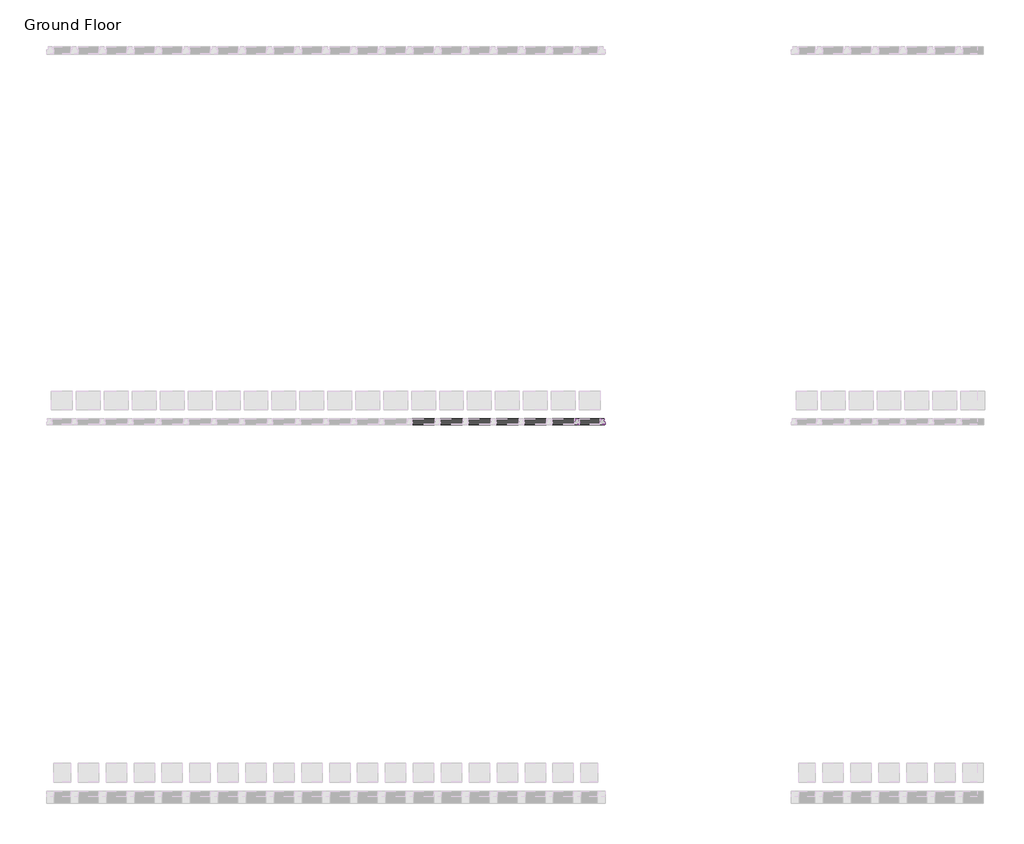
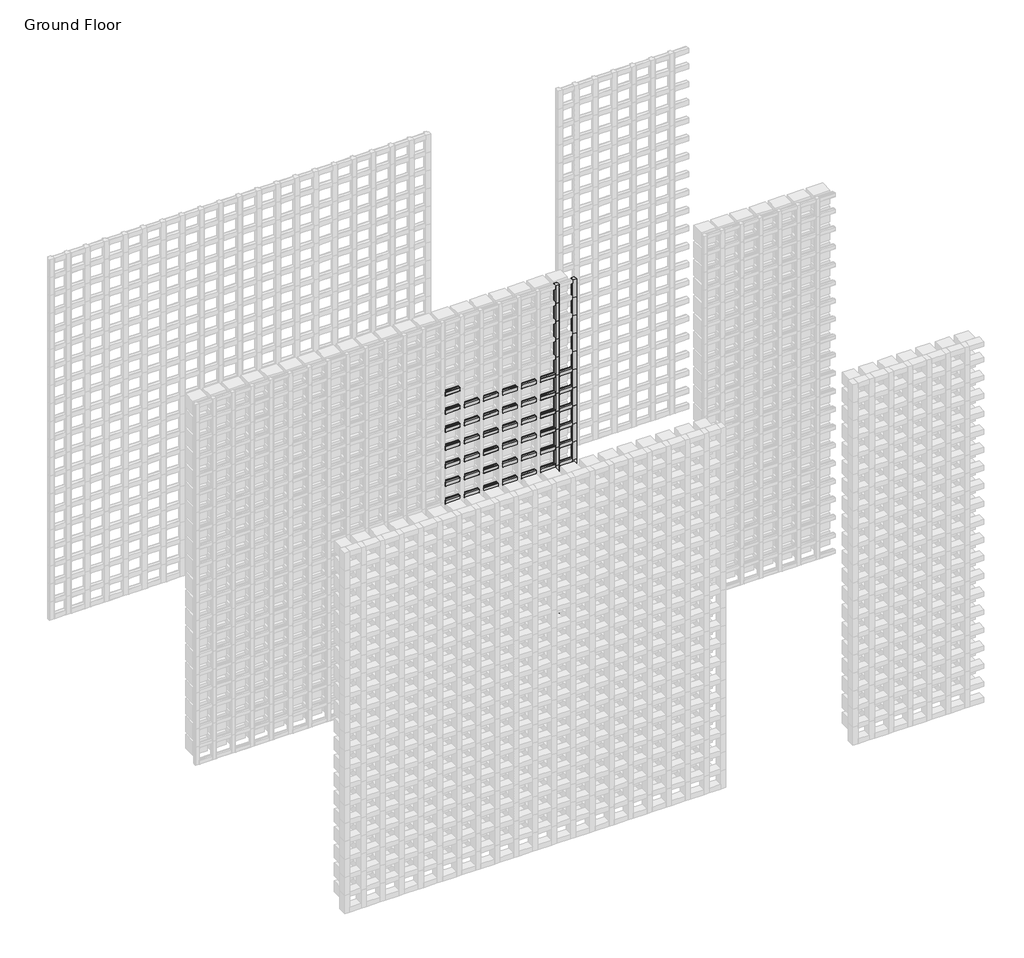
# One storey, part 134 of 350: 144 members.
"""IFC4 building model written with IfcOpenShell, lengths in millimetres."""

from ifc_helpers import new_model, si_unit, origin, place, context, project, spatial, transform, mapped, element, save
from components import rectangular_mullion_f1976eb1, rectangular_mullion_e2bab149, rectangular_mullion_707a50c4, rectangular_mullion_a370a012

model = new_model("IFC4")

# Units and contexts
model_context = context("Model", 3, world=origin())
ifc_project = project(units=[si_unit("LENGTHUNIT", "METRE", prefix="MILLI")], contexts=[model_context])

# Site, building, storey
site = spatial("IfcSite", under=ifc_project)
building = spatial("IfcBuilding", under=site)
storey = spatial("IfcBuildingStorey", under=building, Name="Ground Floor", Elevation=0.0)

# Members
placement = place(None, origin())
rectangular_mullion_shape = rectangular_mullion_f1976eb1(model_context)
element("IfcMember", 1, ObjectType="Rectangular Mullion : Batten_Timber_Modinex_Austratus_Grid_Fin_30x30_Blackbutt", at=placement, inside=storey, context=model_context, shape_type="MappedRepresentation", body=[
    mapped(rectangular_mullion_shape, transform((8766.4361642, 42968.2978302, 150.0), x_axis=(1.0, 0.0, 0.0), y_axis=(0.0, -1.0, 0.0), z_axis=(0.0, 0.0, -1.0))),
])
element("IfcMember", 2, ObjectType="Rectangular Mullion : Batten_Timber_Modinex_Austratus_Grid_Fin_30x30_Blackbutt", at=placement, inside=storey, context=model_context, shape_type="MappedRepresentation", body=[
    mapped(rectangular_mullion_shape, transform((8766.4361642, 42968.2978302, 300.0), x_axis=(1.0, 0.0, 0.0), y_axis=(0.0, -1.0, 0.0), z_axis=(0.0, 0.0, -1.0))),
])
element("IfcMember", 3, ObjectType="Rectangular Mullion : Batten_Timber_Modinex_Austratus_Grid_Fin_30x30_Blackbutt", at=placement, inside=storey, context=model_context, shape_type="MappedRepresentation", body=[
    mapped(rectangular_mullion_shape, transform((8766.4361642, 42968.2978302, 450.0), x_axis=(1.0, 0.0, 0.0), y_axis=(0.0, -1.0, 0.0), z_axis=(0.0, 0.0, -1.0))),
])
element("IfcMember", 4, ObjectType="Rectangular Mullion : Batten_Timber_Modinex_Austratus_Grid_Fin_30x30_Blackbutt", at=placement, inside=storey, context=model_context, shape_type="MappedRepresentation", body=[
    mapped(rectangular_mullion_shape, transform((8766.4361642, 42968.2978302, 600.0), x_axis=(1.0, 0.0, 0.0), y_axis=(0.0, -1.0, 0.0), z_axis=(0.0, 0.0, -1.0))),
])
element("IfcMember", 5, ObjectType="Rectangular Mullion : Batten_Timber_Modinex_Austratus_Grid_Fin_30x30_Blackbutt", at=placement, inside=storey, context=model_context, shape_type="MappedRepresentation", body=[
    mapped(rectangular_mullion_shape, transform((8766.4361642, 42968.2978302, 750.0), x_axis=(1.0, 0.0, 0.0), y_axis=(0.0, -1.0, 0.0), z_axis=(0.0, 0.0, -1.0))),
])
element("IfcMember", 6, ObjectType="Rectangular Mullion : Batten_Timber_Modinex_Austratus_Grid_Fin_30x30_Blackbutt", at=placement, inside=storey, context=model_context, shape_type="MappedRepresentation", body=[
    mapped(rectangular_mullion_shape, transform((8766.4361642, 42968.2978302, 900.0), x_axis=(1.0, 0.0, 0.0), y_axis=(0.0, -1.0, 0.0), z_axis=(0.0, 0.0, -1.0))),
])
element("IfcMember", 7, ObjectType="Rectangular Mullion : Batten_Timber_Modinex_Austratus_Grid_Fin_30x30_Blackbutt", at=placement, inside=storey, context=model_context, shape_type="MappedRepresentation", body=[
    mapped(rectangular_mullion_shape, transform((8766.4361642, 42968.2978302, 1050.0), x_axis=(1.0, 0.0, 0.0), y_axis=(0.0, -1.0, 0.0), z_axis=(0.0, 0.0, -1.0))),
])
element("IfcMember", 8, ObjectType="Rectangular Mullion : Batten_Timber_Modinex_Austratus_Grid_Fin_30x30_Blackbutt", at=placement, inside=storey, context=model_context, shape_type="MappedRepresentation", body=[
    mapped(rectangular_mullion_shape, transform((8766.4361642, 42968.2978302, 1200.0), x_axis=(1.0, 0.0, 0.0), y_axis=(0.0, -1.0, 0.0), z_axis=(0.0, 0.0, -1.0))),
])
element("IfcMember", 9, ObjectType="Rectangular Mullion : Batten_Timber_Modinex_Austratus_Grid_Fin_30x30_Blackbutt", at=placement, inside=storey, context=model_context, shape_type="MappedRepresentation", body=[
    mapped(rectangular_mullion_shape, transform((8766.4361642, 42968.2978302, 1350.0), x_axis=(1.0, 0.0, 0.0), y_axis=(0.0, -1.0, 0.0), z_axis=(0.0, 0.0, -1.0))),
])
element("IfcMember", 10, ObjectType="Rectangular Mullion : Batten_Timber_Modinex_Austratus_Grid_Fin_30x30_Blackbutt", at=placement, inside=storey, context=model_context, shape_type="MappedRepresentation", body=[
    mapped(rectangular_mullion_shape, transform((8766.4361642, 42968.2978302, 1500.0), x_axis=(1.0, 0.0, 0.0), y_axis=(0.0, -1.0, 0.0), z_axis=(0.0, 0.0, -1.0))),
])
element("IfcMember", 11, ObjectType="Rectangular Mullion : Batten_Timber_Modinex_Austratus_Grid_Fin_30x30_Blackbutt", at=placement, inside=storey, context=model_context, shape_type="MappedRepresentation", body=[
    mapped(rectangular_mullion_shape, transform((8766.4361642, 42968.2978302, 1650.0), x_axis=(1.0, 0.0, 0.0), y_axis=(0.0, -1.0, 0.0), z_axis=(0.0, 0.0, -1.0))),
])
element("IfcMember", 12, ObjectType="Rectangular Mullion : Batten_Timber_Modinex_Austratus_Grid_Fin_30x30_Blackbutt", at=placement, inside=storey, context=model_context, shape_type="MappedRepresentation", body=[
    mapped(rectangular_mullion_shape, transform((8766.4361642, 42968.2978302, 1800.0), x_axis=(1.0, 0.0, 0.0), y_axis=(0.0, -1.0, 0.0), z_axis=(0.0, 0.0, -1.0))),
])
element("IfcMember", 13, ObjectType="Rectangular Mullion : Batten_Timber_Modinex_Austratus_Grid_Fin_30x30_Blackbutt", at=placement, inside=storey, context=model_context, shape_type="MappedRepresentation", body=[
    mapped(rectangular_mullion_shape, transform((8766.4361642, 42968.2978302, 1950.0), x_axis=(1.0, 0.0, 0.0), y_axis=(0.0, -1.0, 0.0), z_axis=(0.0, 0.0, -1.0))),
])
element("IfcMember", 14, ObjectType="Rectangular Mullion : Batten_Timber_Modinex_Austratus_Grid_Fin_30x30_Blackbutt", at=placement, inside=storey, context=model_context, shape_type="MappedRepresentation", body=[
    mapped(rectangular_mullion_shape, transform((8766.4361642, 42968.2978302, 2100.0), x_axis=(1.0, 0.0, 0.0), y_axis=(0.0, -1.0, 0.0), z_axis=(0.0, 0.0, -1.0))),
])
element("IfcMember", 15, ObjectType="Rectangular Mullion : Batten_Timber_Modinex_Austratus_Grid_Fin_30x30_Blackbutt", at=placement, inside=storey, context=model_context, shape_type="MappedRepresentation", body=[
    mapped(rectangular_mullion_shape, transform((8766.4361642, 42968.2978302, 2250.0), x_axis=(1.0, 0.0, 0.0), y_axis=(0.0, -1.0, 0.0), z_axis=(0.0, 0.0, -1.0))),
])
element("IfcMember", 16, ObjectType="Rectangular Mullion : Batten_Timber_Modinex_Austratus_Grid_Fin_30x30_Blackbutt", at=placement, inside=storey, context=model_context, shape_type="MappedRepresentation", body=[
    mapped(rectangular_mullion_shape, transform((8766.4361642, 42968.2978302, 2400.0), x_axis=(1.0, 0.0, 0.0), y_axis=(0.0, -1.0, 0.0), z_axis=(0.0, 0.0, -1.0))),
])
element("IfcMember", 17, ObjectType="Rectangular Mullion : Batten_Timber_Modinex_Austratus_Grid_Fin_30x30_Blackbutt", at=placement, inside=storey, context=model_context, shape_type="MappedRepresentation", body=[
    mapped(rectangular_mullion_shape, transform((8766.4361642, 42968.2978302, 2550.0), x_axis=(1.0, 0.0, 0.0), y_axis=(0.0, -1.0, 0.0), z_axis=(0.0, 0.0, -1.0))),
])
element("IfcMember", 18, ObjectType="Rectangular Mullion : Batten_Timber_Modinex_Austratus_Grid_Fin_30x30_Blackbutt", at=placement, inside=storey, context=model_context, shape_type="MappedRepresentation", body=[
    mapped(rectangular_mullion_shape, transform((8766.4361642, 42968.2978302, 2700.0), x_axis=(1.0, 0.0, 0.0), y_axis=(0.0, -1.0, 0.0), z_axis=(0.0, 0.0, -1.0))),
])
element("IfcMember", 19, ObjectType="Rectangular Mullion : Batten_Timber_Modinex_Austratus_Grid_Fin_30x30_Blackbutt", at=placement, inside=storey, context=model_context, shape_type="MappedRepresentation", body=[
    mapped(rectangular_mullion_shape, transform((8766.4361642, 42968.2978302, 2850.0), x_axis=(1.0, 0.0, 0.0), y_axis=(0.0, -1.0, 0.0), z_axis=(0.0, 0.0, -1.0))),
])
rectangular_mullion_2_shape = rectangular_mullion_e2bab149(model_context)
element("IfcMember", 20, ObjectType="Rectangular Mullion : Batten_Timber_Modinex_Austratus_Grid_Fin_30x30_Blackbutt", at=placement, inside=storey, context=model_context, shape_type="MappedRepresentation", body=[
    mapped(rectangular_mullion_2_shape, transform((8886.4361639, 42968.2978302, 150.0), x_axis=(0.0, 0.0, 1.0), y_axis=(0.0, -1.0, 0.0), z_axis=(1.0, 0.0, 0.0))),
])
element("IfcMember", 21, ObjectType="Rectangular Mullion : Batten_Timber_Modinex_Austratus_Grid_Fin_30x30_Blackbutt", at=placement, inside=storey, context=model_context, shape_type="MappedRepresentation", body=[
    mapped(rectangular_mullion_2_shape, transform((8886.4361639, 42968.2978302, 300.0), x_axis=(0.0, 0.0, 1.0), y_axis=(0.0, -1.0, 0.0), z_axis=(1.0, 0.0, 0.0))),
])
element("IfcMember", 22, ObjectType="Rectangular Mullion : Batten_Timber_Modinex_Austratus_Grid_Fin_30x30_Blackbutt", at=placement, inside=storey, context=model_context, shape_type="MappedRepresentation", body=[
    mapped(rectangular_mullion_2_shape, transform((8886.4361639, 42968.2978302, 450.0), x_axis=(0.0, 0.0, 1.0), y_axis=(0.0, -1.0, 0.0), z_axis=(1.0, 0.0, 0.0))),
])
element("IfcMember", 23, ObjectType="Rectangular Mullion : Batten_Timber_Modinex_Austratus_Grid_Fin_30x30_Blackbutt", at=placement, inside=storey, context=model_context, shape_type="MappedRepresentation", body=[
    mapped(rectangular_mullion_2_shape, transform((8886.4361639, 42968.2978302, 600.0), x_axis=(0.0, 0.0, 1.0), y_axis=(0.0, -1.0, 0.0), z_axis=(1.0, 0.0, 0.0))),
])
element("IfcMember", 24, ObjectType="Rectangular Mullion : Batten_Timber_Modinex_Austratus_Grid_Fin_30x30_Blackbutt", at=placement, inside=storey, context=model_context, shape_type="MappedRepresentation", body=[
    mapped(rectangular_mullion_2_shape, transform((8886.4361639, 42968.2978302, 750.0), x_axis=(0.0, 0.0, 1.0), y_axis=(0.0, -1.0, 0.0), z_axis=(1.0, 0.0, 0.0))),
])
element("IfcMember", 25, ObjectType="Rectangular Mullion : Batten_Timber_Modinex_Austratus_Grid_Fin_30x30_Blackbutt", at=placement, inside=storey, context=model_context, shape_type="MappedRepresentation", body=[
    mapped(rectangular_mullion_2_shape, transform((8886.4361639, 42968.2978302, 900.0), x_axis=(0.0, 0.0, 1.0), y_axis=(0.0, -1.0, 0.0), z_axis=(1.0, 0.0, 0.0))),
])
element("IfcMember", 26, ObjectType="Rectangular Mullion : Batten_Timber_Modinex_Austratus_Grid_Fin_30x30_Blackbutt", at=placement, inside=storey, context=model_context, shape_type="MappedRepresentation", body=[
    mapped(rectangular_mullion_2_shape, transform((8886.4361639, 42968.2978302, 1050.0), x_axis=(0.0, 0.0, 1.0), y_axis=(0.0, -1.0, 0.0), z_axis=(1.0, 0.0, 0.0))),
])
element("IfcMember", 27, ObjectType="Rectangular Mullion : Batten_Timber_Modinex_Austratus_Grid_Fin_30x30_Blackbutt", at=placement, inside=storey, context=model_context, shape_type="MappedRepresentation", body=[
    mapped(rectangular_mullion_2_shape, transform((8886.4361639, 42968.2978302, 1200.0), x_axis=(0.0, 0.0, 1.0), y_axis=(0.0, -1.0, 0.0), z_axis=(1.0, 0.0, 0.0))),
])
element("IfcMember", 28, ObjectType="Rectangular Mullion : Batten_Timber_Modinex_Austratus_Grid_Fin_30x30_Blackbutt", at=placement, inside=storey, context=model_context, shape_type="MappedRepresentation", body=[
    mapped(rectangular_mullion_2_shape, transform((8886.4361639, 42968.2978302, 1350.0), x_axis=(0.0, 0.0, 1.0), y_axis=(0.0, -1.0, 0.0), z_axis=(1.0, 0.0, 0.0))),
])
element("IfcMember", 29, ObjectType="Rectangular Mullion : Batten_Timber_Modinex_Austratus_Grid_Fin_30x30_Blackbutt", at=placement, inside=storey, context=model_context, shape_type="MappedRepresentation", body=[
    mapped(rectangular_mullion_2_shape, transform((8886.4361639, 42968.2978302, 1500.0), x_axis=(0.0, 0.0, 1.0), y_axis=(0.0, -1.0, 0.0), z_axis=(1.0, 0.0, 0.0))),
])
element("IfcMember", 30, ObjectType="Rectangular Mullion : Batten_Timber_Modinex_Austratus_Grid_Fin_30x30_Blackbutt", at=placement, inside=storey, context=model_context, shape_type="MappedRepresentation", body=[
    mapped(rectangular_mullion_2_shape, transform((8886.4361639, 42968.2978302, 1650.0), x_axis=(0.0, 0.0, 1.0), y_axis=(0.0, -1.0, 0.0), z_axis=(1.0, 0.0, 0.0))),
])
element("IfcMember", 31, ObjectType="Rectangular Mullion : Batten_Timber_Modinex_Austratus_Grid_Fin_30x30_Blackbutt", at=placement, inside=storey, context=model_context, shape_type="MappedRepresentation", body=[
    mapped(rectangular_mullion_2_shape, transform((8886.4361639, 42968.2978302, 1800.0), x_axis=(0.0, 0.0, 1.0), y_axis=(0.0, -1.0, 0.0), z_axis=(1.0, 0.0, 0.0))),
])
element("IfcMember", 32, ObjectType="Rectangular Mullion : Batten_Timber_Modinex_Austratus_Grid_Fin_30x30_Blackbutt", at=placement, inside=storey, context=model_context, shape_type="MappedRepresentation", body=[
    mapped(rectangular_mullion_2_shape, transform((8886.4361639, 42968.2978302, 1950.0), x_axis=(0.0, 0.0, 1.0), y_axis=(0.0, -1.0, 0.0), z_axis=(1.0, 0.0, 0.0))),
])
element("IfcMember", 33, ObjectType="Rectangular Mullion : Batten_Timber_Modinex_Austratus_Grid_Fin_30x30_Blackbutt", at=placement, inside=storey, context=model_context, shape_type="MappedRepresentation", body=[
    mapped(rectangular_mullion_2_shape, transform((8886.4361639, 42968.2978302, 2100.0), x_axis=(0.0, 0.0, 1.0), y_axis=(0.0, -1.0, 0.0), z_axis=(1.0, 0.0, 0.0))),
])
element("IfcMember", 34, ObjectType="Rectangular Mullion : Batten_Timber_Modinex_Austratus_Grid_Fin_30x30_Blackbutt", at=placement, inside=storey, context=model_context, shape_type="MappedRepresentation", body=[
    mapped(rectangular_mullion_2_shape, transform((8886.4361639, 42968.2978302, 2250.0), x_axis=(0.0, 0.0, 1.0), y_axis=(0.0, -1.0, 0.0), z_axis=(1.0, 0.0, 0.0))),
])
rectangular_mullion_3_shape = rectangular_mullion_707a50c4(model_context)
element("IfcMember", 35, ObjectType="Rectangular Mullion : Batten_Timber_Modinex_Austratus_Grid_Fin_30x30_Blackbutt", at=placement, inside=storey, context=model_context, shape_type="MappedRepresentation", body=[
    mapped(rectangular_mullion_3_shape, transform((8001.4361642, 42968.2978302, 150.0), x_axis=(0.0, 0.0, 1.0), y_axis=(0.0, -1.0, 0.0), z_axis=(1.0, 0.0, 0.0))),
])
element("IfcMember", 36, ObjectType="Rectangular Mullion : Batten_Timber_Modinex_Austratus_Grid_Fin_30x30_Blackbutt", at=placement, inside=storey, context=model_context, shape_type="MappedRepresentation", body=[
    mapped(rectangular_mullion_3_shape, transform((8151.4361642, 42968.2978302, 150.0), x_axis=(0.0, 0.0, 1.0), y_axis=(0.0, -1.0, 0.0), z_axis=(1.0, 0.0, 0.0))),
])
element("IfcMember", 37, ObjectType="Rectangular Mullion : Batten_Timber_Modinex_Austratus_Grid_Fin_30x30_Blackbutt", at=placement, inside=storey, context=model_context, shape_type="MappedRepresentation", body=[
    mapped(rectangular_mullion_3_shape, transform((8301.4361642, 42968.2978302, 150.0), x_axis=(0.0, 0.0, 1.0), y_axis=(0.0, -1.0, 0.0), z_axis=(1.0, 0.0, 0.0))),
])
element("IfcMember", 38, ObjectType="Rectangular Mullion : Batten_Timber_Modinex_Austratus_Grid_Fin_30x30_Blackbutt", at=placement, inside=storey, context=model_context, shape_type="MappedRepresentation", body=[
    mapped(rectangular_mullion_3_shape, transform((8451.4361642, 42968.2978302, 150.0), x_axis=(0.0, 0.0, 1.0), y_axis=(0.0, -1.0, 0.0), z_axis=(1.0, 0.0, 0.0))),
])
element("IfcMember", 39, ObjectType="Rectangular Mullion : Batten_Timber_Modinex_Austratus_Grid_Fin_30x30_Blackbutt", at=placement, inside=storey, context=model_context, shape_type="MappedRepresentation", body=[
    mapped(rectangular_mullion_3_shape, transform((8601.4361642, 42968.2978302, 150.0), x_axis=(0.0, 0.0, 1.0), y_axis=(0.0, -1.0, 0.0), z_axis=(1.0, 0.0, 0.0))),
])
element("IfcMember", 40, ObjectType="Rectangular Mullion : Batten_Timber_Modinex_Austratus_Grid_Fin_30x30_Blackbutt", at=placement, inside=storey, context=model_context, shape_type="MappedRepresentation", body=[
    mapped(rectangular_mullion_3_shape, transform((8751.4361642, 42968.2978302, 150.0), x_axis=(0.0, 0.0, 1.0), y_axis=(0.0, -1.0, 0.0), z_axis=(1.0, 0.0, 0.0))),
])
element("IfcMember", 41, ObjectType="Rectangular Mullion : Batten_Timber_Modinex_Austratus_Grid_Fin_30x30_Blackbutt", at=placement, inside=storey, context=model_context, shape_type="MappedRepresentation", body=[
    mapped(rectangular_mullion_3_shape, transform((8001.4361642, 42968.2978302, 300.0), x_axis=(0.0, 0.0, 1.0), y_axis=(0.0, -1.0, 0.0), z_axis=(1.0, 0.0, 0.0))),
])
element("IfcMember", 42, ObjectType="Rectangular Mullion : Batten_Timber_Modinex_Austratus_Grid_Fin_30x30_Blackbutt", at=placement, inside=storey, context=model_context, shape_type="MappedRepresentation", body=[
    mapped(rectangular_mullion_3_shape, transform((8151.4361642, 42968.2978302, 300.0), x_axis=(0.0, 0.0, 1.0), y_axis=(0.0, -1.0, 0.0), z_axis=(1.0, 0.0, 0.0))),
])
element("IfcMember", 43, ObjectType="Rectangular Mullion : Batten_Timber_Modinex_Austratus_Grid_Fin_30x30_Blackbutt", at=placement, inside=storey, context=model_context, shape_type="MappedRepresentation", body=[
    mapped(rectangular_mullion_3_shape, transform((8301.4361642, 42968.2978302, 300.0), x_axis=(0.0, 0.0, 1.0), y_axis=(0.0, -1.0, 0.0), z_axis=(1.0, 0.0, 0.0))),
])
element("IfcMember", 44, ObjectType="Rectangular Mullion : Batten_Timber_Modinex_Austratus_Grid_Fin_30x30_Blackbutt", at=placement, inside=storey, context=model_context, shape_type="MappedRepresentation", body=[
    mapped(rectangular_mullion_3_shape, transform((8451.4361642, 42968.2978302, 300.0), x_axis=(0.0, 0.0, 1.0), y_axis=(0.0, -1.0, 0.0), z_axis=(1.0, 0.0, 0.0))),
])
element("IfcMember", 45, ObjectType="Rectangular Mullion : Batten_Timber_Modinex_Austratus_Grid_Fin_30x30_Blackbutt", at=placement, inside=storey, context=model_context, shape_type="MappedRepresentation", body=[
    mapped(rectangular_mullion_3_shape, transform((8601.4361642, 42968.2978302, 300.0), x_axis=(0.0, 0.0, 1.0), y_axis=(0.0, -1.0, 0.0), z_axis=(1.0, 0.0, 0.0))),
])
element("IfcMember", 46, ObjectType="Rectangular Mullion : Batten_Timber_Modinex_Austratus_Grid_Fin_30x30_Blackbutt", at=placement, inside=storey, context=model_context, shape_type="MappedRepresentation", body=[
    mapped(rectangular_mullion_3_shape, transform((8751.4361642, 42968.2978302, 300.0), x_axis=(0.0, 0.0, 1.0), y_axis=(0.0, -1.0, 0.0), z_axis=(1.0, 0.0, 0.0))),
])
element("IfcMember", 47, ObjectType="Rectangular Mullion : Batten_Timber_Modinex_Austratus_Grid_Fin_30x30_Blackbutt", at=placement, inside=storey, context=model_context, shape_type="MappedRepresentation", body=[
    mapped(rectangular_mullion_3_shape, transform((8001.4361642, 42968.2978302, 450.0), x_axis=(0.0, 0.0, 1.0), y_axis=(0.0, -1.0, 0.0), z_axis=(1.0, 0.0, 0.0))),
])
element("IfcMember", 48, ObjectType="Rectangular Mullion : Batten_Timber_Modinex_Austratus_Grid_Fin_30x30_Blackbutt", at=placement, inside=storey, context=model_context, shape_type="MappedRepresentation", body=[
    mapped(rectangular_mullion_3_shape, transform((8151.4361642, 42968.2978302, 450.0), x_axis=(0.0, 0.0, 1.0), y_axis=(0.0, -1.0, 0.0), z_axis=(1.0, 0.0, 0.0))),
])
element("IfcMember", 49, ObjectType="Rectangular Mullion : Batten_Timber_Modinex_Austratus_Grid_Fin_30x30_Blackbutt", at=placement, inside=storey, context=model_context, shape_type="MappedRepresentation", body=[
    mapped(rectangular_mullion_3_shape, transform((8301.4361642, 42968.2978302, 450.0), x_axis=(0.0, 0.0, 1.0), y_axis=(0.0, -1.0, 0.0), z_axis=(1.0, 0.0, 0.0))),
])
element("IfcMember", 50, ObjectType="Rectangular Mullion : Batten_Timber_Modinex_Austratus_Grid_Fin_30x30_Blackbutt", at=placement, inside=storey, context=model_context, shape_type="MappedRepresentation", body=[
    mapped(rectangular_mullion_3_shape, transform((8451.4361642, 42968.2978302, 450.0), x_axis=(0.0, 0.0, 1.0), y_axis=(0.0, -1.0, 0.0), z_axis=(1.0, 0.0, 0.0))),
])
element("IfcMember", 51, ObjectType="Rectangular Mullion : Batten_Timber_Modinex_Austratus_Grid_Fin_30x30_Blackbutt", at=placement, inside=storey, context=model_context, shape_type="MappedRepresentation", body=[
    mapped(rectangular_mullion_3_shape, transform((8601.4361642, 42968.2978302, 450.0), x_axis=(0.0, 0.0, 1.0), y_axis=(0.0, -1.0, 0.0), z_axis=(1.0, 0.0, 0.0))),
])
element("IfcMember", 52, ObjectType="Rectangular Mullion : Batten_Timber_Modinex_Austratus_Grid_Fin_30x30_Blackbutt", at=placement, inside=storey, context=model_context, shape_type="MappedRepresentation", body=[
    mapped(rectangular_mullion_3_shape, transform((8751.4361642, 42968.2978302, 450.0), x_axis=(0.0, 0.0, 1.0), y_axis=(0.0, -1.0, 0.0), z_axis=(1.0, 0.0, 0.0))),
])
element("IfcMember", 53, ObjectType="Rectangular Mullion : Batten_Timber_Modinex_Austratus_Grid_Fin_30x30_Blackbutt", at=placement, inside=storey, context=model_context, shape_type="MappedRepresentation", body=[
    mapped(rectangular_mullion_3_shape, transform((8001.4361642, 42968.2978302, 600.0), x_axis=(0.0, 0.0, 1.0), y_axis=(0.0, -1.0, 0.0), z_axis=(1.0, 0.0, 0.0))),
])
element("IfcMember", 54, ObjectType="Rectangular Mullion : Batten_Timber_Modinex_Austratus_Grid_Fin_30x30_Blackbutt", at=placement, inside=storey, context=model_context, shape_type="MappedRepresentation", body=[
    mapped(rectangular_mullion_3_shape, transform((8151.4361642, 42968.2978302, 600.0), x_axis=(0.0, 0.0, 1.0), y_axis=(0.0, -1.0, 0.0), z_axis=(1.0, 0.0, 0.0))),
])
element("IfcMember", 55, ObjectType="Rectangular Mullion : Batten_Timber_Modinex_Austratus_Grid_Fin_30x30_Blackbutt", at=placement, inside=storey, context=model_context, shape_type="MappedRepresentation", body=[
    mapped(rectangular_mullion_3_shape, transform((8301.4361642, 42968.2978302, 600.0), x_axis=(0.0, 0.0, 1.0), y_axis=(0.0, -1.0, 0.0), z_axis=(1.0, 0.0, 0.0))),
])
element("IfcMember", 56, ObjectType="Rectangular Mullion : Batten_Timber_Modinex_Austratus_Grid_Fin_30x30_Blackbutt", at=placement, inside=storey, context=model_context, shape_type="MappedRepresentation", body=[
    mapped(rectangular_mullion_3_shape, transform((8451.4361642, 42968.2978302, 600.0), x_axis=(0.0, 0.0, 1.0), y_axis=(0.0, -1.0, 0.0), z_axis=(1.0, 0.0, 0.0))),
])
element("IfcMember", 57, ObjectType="Rectangular Mullion : Batten_Timber_Modinex_Austratus_Grid_Fin_30x30_Blackbutt", at=placement, inside=storey, context=model_context, shape_type="MappedRepresentation", body=[
    mapped(rectangular_mullion_3_shape, transform((8601.4361642, 42968.2978302, 600.0), x_axis=(0.0, 0.0, 1.0), y_axis=(0.0, -1.0, 0.0), z_axis=(1.0, 0.0, 0.0))),
])
element("IfcMember", 58, ObjectType="Rectangular Mullion : Batten_Timber_Modinex_Austratus_Grid_Fin_30x30_Blackbutt", at=placement, inside=storey, context=model_context, shape_type="MappedRepresentation", body=[
    mapped(rectangular_mullion_3_shape, transform((8751.4361642, 42968.2978302, 600.0), x_axis=(0.0, 0.0, 1.0), y_axis=(0.0, -1.0, 0.0), z_axis=(1.0, 0.0, 0.0))),
])
element("IfcMember", 59, ObjectType="Rectangular Mullion : Batten_Timber_Modinex_Austratus_Grid_Fin_30x30_Blackbutt", at=placement, inside=storey, context=model_context, shape_type="MappedRepresentation", body=[
    mapped(rectangular_mullion_3_shape, transform((8001.4361642, 42968.2978302, 750.0), x_axis=(0.0, 0.0, 1.0), y_axis=(0.0, -1.0, 0.0), z_axis=(1.0, 0.0, 0.0))),
])
element("IfcMember", 60, ObjectType="Rectangular Mullion : Batten_Timber_Modinex_Austratus_Grid_Fin_30x30_Blackbutt", at=placement, inside=storey, context=model_context, shape_type="MappedRepresentation", body=[
    mapped(rectangular_mullion_3_shape, transform((8151.4361642, 42968.2978302, 750.0), x_axis=(0.0, 0.0, 1.0), y_axis=(0.0, -1.0, 0.0), z_axis=(1.0, 0.0, 0.0))),
])
element("IfcMember", 61, ObjectType="Rectangular Mullion : Batten_Timber_Modinex_Austratus_Grid_Fin_30x30_Blackbutt", at=placement, inside=storey, context=model_context, shape_type="MappedRepresentation", body=[
    mapped(rectangular_mullion_3_shape, transform((8301.4361642, 42968.2978302, 750.0), x_axis=(0.0, 0.0, 1.0), y_axis=(0.0, -1.0, 0.0), z_axis=(1.0, 0.0, 0.0))),
])
element("IfcMember", 62, ObjectType="Rectangular Mullion : Batten_Timber_Modinex_Austratus_Grid_Fin_30x30_Blackbutt", at=placement, inside=storey, context=model_context, shape_type="MappedRepresentation", body=[
    mapped(rectangular_mullion_3_shape, transform((8451.4361642, 42968.2978302, 750.0), x_axis=(0.0, 0.0, 1.0), y_axis=(0.0, -1.0, 0.0), z_axis=(1.0, 0.0, 0.0))),
])
element("IfcMember", 63, ObjectType="Rectangular Mullion : Batten_Timber_Modinex_Austratus_Grid_Fin_30x30_Blackbutt", at=placement, inside=storey, context=model_context, shape_type="MappedRepresentation", body=[
    mapped(rectangular_mullion_3_shape, transform((8601.4361642, 42968.2978302, 750.0), x_axis=(0.0, 0.0, 1.0), y_axis=(0.0, -1.0, 0.0), z_axis=(1.0, 0.0, 0.0))),
])
element("IfcMember", 64, ObjectType="Rectangular Mullion : Batten_Timber_Modinex_Austratus_Grid_Fin_30x30_Blackbutt", at=placement, inside=storey, context=model_context, shape_type="MappedRepresentation", body=[
    mapped(rectangular_mullion_3_shape, transform((8751.4361642, 42968.2978302, 750.0), x_axis=(0.0, 0.0, 1.0), y_axis=(0.0, -1.0, 0.0), z_axis=(1.0, 0.0, 0.0))),
])
element("IfcMember", 65, ObjectType="Rectangular Mullion : Batten_Timber_Modinex_Austratus_Grid_Fin_30x30_Blackbutt", at=placement, inside=storey, context=model_context, shape_type="MappedRepresentation", body=[
    mapped(rectangular_mullion_3_shape, transform((8001.4361642, 42968.2978302, 900.0), x_axis=(0.0, 0.0, 1.0), y_axis=(0.0, -1.0, 0.0), z_axis=(1.0, 0.0, 0.0))),
])
element("IfcMember", 66, ObjectType="Rectangular Mullion : Batten_Timber_Modinex_Austratus_Grid_Fin_30x30_Blackbutt", at=placement, inside=storey, context=model_context, shape_type="MappedRepresentation", body=[
    mapped(rectangular_mullion_3_shape, transform((8151.4361642, 42968.2978302, 900.0), x_axis=(0.0, 0.0, 1.0), y_axis=(0.0, -1.0, 0.0), z_axis=(1.0, 0.0, 0.0))),
])
element("IfcMember", 67, ObjectType="Rectangular Mullion : Batten_Timber_Modinex_Austratus_Grid_Fin_30x30_Blackbutt", at=placement, inside=storey, context=model_context, shape_type="MappedRepresentation", body=[
    mapped(rectangular_mullion_3_shape, transform((8301.4361642, 42968.2978302, 900.0), x_axis=(0.0, 0.0, 1.0), y_axis=(0.0, -1.0, 0.0), z_axis=(1.0, 0.0, 0.0))),
])
element("IfcMember", 68, ObjectType="Rectangular Mullion : Batten_Timber_Modinex_Austratus_Grid_Fin_30x30_Blackbutt", at=placement, inside=storey, context=model_context, shape_type="MappedRepresentation", body=[
    mapped(rectangular_mullion_3_shape, transform((8451.4361642, 42968.2978302, 900.0), x_axis=(0.0, 0.0, 1.0), y_axis=(0.0, -1.0, 0.0), z_axis=(1.0, 0.0, 0.0))),
])
element("IfcMember", 69, ObjectType="Rectangular Mullion : Batten_Timber_Modinex_Austratus_Grid_Fin_30x30_Blackbutt", at=placement, inside=storey, context=model_context, shape_type="MappedRepresentation", body=[
    mapped(rectangular_mullion_3_shape, transform((8601.4361642, 42968.2978302, 900.0), x_axis=(0.0, 0.0, 1.0), y_axis=(0.0, -1.0, 0.0), z_axis=(1.0, 0.0, 0.0))),
])
element("IfcMember", 70, ObjectType="Rectangular Mullion : Batten_Timber_Modinex_Austratus_Grid_Fin_30x30_Blackbutt", at=placement, inside=storey, context=model_context, shape_type="MappedRepresentation", body=[
    mapped(rectangular_mullion_3_shape, transform((8751.4361642, 42968.2978302, 900.0), x_axis=(0.0, 0.0, 1.0), y_axis=(0.0, -1.0, 0.0), z_axis=(1.0, 0.0, 0.0))),
])
element("IfcMember", 71, ObjectType="Rectangular Mullion : Batten_Timber_Modinex_Austratus_Grid_Fin_30x30_Blackbutt", at=placement, inside=storey, context=model_context, shape_type="MappedRepresentation", body=[
    mapped(rectangular_mullion_3_shape, transform((8001.4361642, 42968.2978302, 1050.0), x_axis=(0.0, 0.0, 1.0), y_axis=(0.0, -1.0, 0.0), z_axis=(1.0, 0.0, 0.0))),
])
element("IfcMember", 72, ObjectType="Rectangular Mullion : Batten_Timber_Modinex_Austratus_Grid_Fin_30x30_Blackbutt", at=placement, inside=storey, context=model_context, shape_type="MappedRepresentation", body=[
    mapped(rectangular_mullion_3_shape, transform((8151.4361642, 42968.2978302, 1050.0), x_axis=(0.0, 0.0, 1.0), y_axis=(0.0, -1.0, 0.0), z_axis=(1.0, 0.0, 0.0))),
])
element("IfcMember", 73, ObjectType="Rectangular Mullion : Batten_Timber_Modinex_Austratus_Grid_Fin_30x30_Blackbutt", at=placement, inside=storey, context=model_context, shape_type="MappedRepresentation", body=[
    mapped(rectangular_mullion_3_shape, transform((8301.4361642, 42968.2978302, 1050.0), x_axis=(0.0, 0.0, 1.0), y_axis=(0.0, -1.0, 0.0), z_axis=(1.0, 0.0, 0.0))),
])
element("IfcMember", 74, ObjectType="Rectangular Mullion : Batten_Timber_Modinex_Austratus_Grid_Fin_30x30_Blackbutt", at=placement, inside=storey, context=model_context, shape_type="MappedRepresentation", body=[
    mapped(rectangular_mullion_3_shape, transform((8451.4361642, 42968.2978302, 1050.0), x_axis=(0.0, 0.0, 1.0), y_axis=(0.0, -1.0, 0.0), z_axis=(1.0, 0.0, 0.0))),
])
element("IfcMember", 75, ObjectType="Rectangular Mullion : Batten_Timber_Modinex_Austratus_Grid_Fin_30x30_Blackbutt", at=placement, inside=storey, context=model_context, shape_type="MappedRepresentation", body=[
    mapped(rectangular_mullion_3_shape, transform((8601.4361642, 42968.2978302, 1050.0), x_axis=(0.0, 0.0, 1.0), y_axis=(0.0, -1.0, 0.0), z_axis=(1.0, 0.0, 0.0))),
])
element("IfcMember", 76, ObjectType="Rectangular Mullion : Batten_Timber_Modinex_Austratus_Grid_Fin_30x30_Blackbutt", at=placement, inside=storey, context=model_context, shape_type="MappedRepresentation", body=[
    mapped(rectangular_mullion_3_shape, transform((8751.4361642, 42968.2978302, 1050.0), x_axis=(0.0, 0.0, 1.0), y_axis=(0.0, -1.0, 0.0), z_axis=(1.0, 0.0, 0.0))),
])
element("IfcMember", 77, ObjectType="Rectangular Mullion : Batten_Timber_Modinex_Austratus_Grid_Fin_30x30_Blackbutt", at=placement, inside=storey, context=model_context, shape_type="MappedRepresentation", body=[
    mapped(rectangular_mullion_3_shape, transform((8001.4361642, 42968.2978302, 1200.0), x_axis=(0.0, 0.0, 1.0), y_axis=(0.0, -1.0, 0.0), z_axis=(1.0, 0.0, 0.0))),
])
element("IfcMember", 78, ObjectType="Rectangular Mullion : Batten_Timber_Modinex_Austratus_Grid_Fin_30x30_Blackbutt", at=placement, inside=storey, context=model_context, shape_type="MappedRepresentation", body=[
    mapped(rectangular_mullion_3_shape, transform((8151.4361642, 42968.2978302, 1200.0), x_axis=(0.0, 0.0, 1.0), y_axis=(0.0, -1.0, 0.0), z_axis=(1.0, 0.0, 0.0))),
])
element("IfcMember", 79, ObjectType="Rectangular Mullion : Batten_Timber_Modinex_Austratus_Grid_Fin_30x30_Blackbutt", at=placement, inside=storey, context=model_context, shape_type="MappedRepresentation", body=[
    mapped(rectangular_mullion_3_shape, transform((8301.4361642, 42968.2978302, 1200.0), x_axis=(0.0, 0.0, 1.0), y_axis=(0.0, -1.0, 0.0), z_axis=(1.0, 0.0, 0.0))),
])
element("IfcMember", 80, ObjectType="Rectangular Mullion : Batten_Timber_Modinex_Austratus_Grid_Fin_30x30_Blackbutt", at=placement, inside=storey, context=model_context, shape_type="MappedRepresentation", body=[
    mapped(rectangular_mullion_3_shape, transform((8451.4361642, 42968.2978302, 1200.0), x_axis=(0.0, 0.0, 1.0), y_axis=(0.0, -1.0, 0.0), z_axis=(1.0, 0.0, 0.0))),
])
element("IfcMember", 81, ObjectType="Rectangular Mullion : Batten_Timber_Modinex_Austratus_Grid_Fin_30x30_Blackbutt", at=placement, inside=storey, context=model_context, shape_type="MappedRepresentation", body=[
    mapped(rectangular_mullion_3_shape, transform((8601.4361642, 42968.2978302, 1200.0), x_axis=(0.0, 0.0, 1.0), y_axis=(0.0, -1.0, 0.0), z_axis=(1.0, 0.0, 0.0))),
])
element("IfcMember", 82, ObjectType="Rectangular Mullion : Batten_Timber_Modinex_Austratus_Grid_Fin_30x30_Blackbutt", at=placement, inside=storey, context=model_context, shape_type="MappedRepresentation", body=[
    mapped(rectangular_mullion_3_shape, transform((8751.4361642, 42968.2978302, 1200.0), x_axis=(0.0, 0.0, 1.0), y_axis=(0.0, -1.0, 0.0), z_axis=(1.0, 0.0, 0.0))),
])
element("IfcMember", 83, ObjectType="Rectangular Mullion : Batten_Timber_Modinex_Austratus_Grid_Fin_30x30_Blackbutt", at=placement, inside=storey, context=model_context, shape_type="MappedRepresentation", body=[
    mapped(rectangular_mullion_3_shape, transform((8001.4361642, 42968.2978302, 1350.0), x_axis=(0.0, 0.0, 1.0), y_axis=(0.0, -1.0, 0.0), z_axis=(1.0, 0.0, 0.0))),
])
element("IfcMember", 84, ObjectType="Rectangular Mullion : Batten_Timber_Modinex_Austratus_Grid_Fin_30x30_Blackbutt", at=placement, inside=storey, context=model_context, shape_type="MappedRepresentation", body=[
    mapped(rectangular_mullion_3_shape, transform((8151.4361642, 42968.2978302, 1350.0), x_axis=(0.0, 0.0, 1.0), y_axis=(0.0, -1.0, 0.0), z_axis=(1.0, 0.0, 0.0))),
])
element("IfcMember", 85, ObjectType="Rectangular Mullion : Batten_Timber_Modinex_Austratus_Grid_Fin_30x30_Blackbutt", at=placement, inside=storey, context=model_context, shape_type="MappedRepresentation", body=[
    mapped(rectangular_mullion_3_shape, transform((8301.4361642, 42968.2978302, 1350.0), x_axis=(0.0, 0.0, 1.0), y_axis=(0.0, -1.0, 0.0), z_axis=(1.0, 0.0, 0.0))),
])
element("IfcMember", 86, ObjectType="Rectangular Mullion : Batten_Timber_Modinex_Austratus_Grid_Fin_30x30_Blackbutt", at=placement, inside=storey, context=model_context, shape_type="MappedRepresentation", body=[
    mapped(rectangular_mullion_3_shape, transform((8451.4361642, 42968.2978302, 1350.0), x_axis=(0.0, 0.0, 1.0), y_axis=(0.0, -1.0, 0.0), z_axis=(1.0, 0.0, 0.0))),
])
element("IfcMember", 87, ObjectType="Rectangular Mullion : Batten_Timber_Modinex_Austratus_Grid_Fin_30x30_Blackbutt", at=placement, inside=storey, context=model_context, shape_type="MappedRepresentation", body=[
    mapped(rectangular_mullion_3_shape, transform((8601.4361642, 42968.2978302, 1350.0), x_axis=(0.0, 0.0, 1.0), y_axis=(0.0, -1.0, 0.0), z_axis=(1.0, 0.0, 0.0))),
])
element("IfcMember", 88, ObjectType="Rectangular Mullion : Batten_Timber_Modinex_Austratus_Grid_Fin_30x30_Blackbutt", at=placement, inside=storey, context=model_context, shape_type="MappedRepresentation", body=[
    mapped(rectangular_mullion_3_shape, transform((8751.4361642, 42968.2978302, 1350.0), x_axis=(0.0, 0.0, 1.0), y_axis=(0.0, -1.0, 0.0), z_axis=(1.0, 0.0, 0.0))),
])
element("IfcMember", 89, ObjectType="Rectangular Mullion : Batten_Timber_Modinex_Austratus_Grid_Fin_30x30_Blackbutt", at=placement, inside=storey, context=model_context, shape_type="MappedRepresentation", body=[
    mapped(rectangular_mullion_3_shape, transform((8001.4361642, 42968.2978302, 1500.0), x_axis=(0.0, 0.0, 1.0), y_axis=(0.0, -1.0, 0.0), z_axis=(1.0, 0.0, 0.0))),
])
element("IfcMember", 90, ObjectType="Rectangular Mullion : Batten_Timber_Modinex_Austratus_Grid_Fin_30x30_Blackbutt", at=placement, inside=storey, context=model_context, shape_type="MappedRepresentation", body=[
    mapped(rectangular_mullion_3_shape, transform((8151.4361642, 42968.2978302, 1500.0), x_axis=(0.0, 0.0, 1.0), y_axis=(0.0, -1.0, 0.0), z_axis=(1.0, 0.0, 0.0))),
])
element("IfcMember", 91, ObjectType="Rectangular Mullion : Batten_Timber_Modinex_Austratus_Grid_Fin_30x30_Blackbutt", at=placement, inside=storey, context=model_context, shape_type="MappedRepresentation", body=[
    mapped(rectangular_mullion_3_shape, transform((8301.4361642, 42968.2978302, 1500.0), x_axis=(0.0, 0.0, 1.0), y_axis=(0.0, -1.0, 0.0), z_axis=(1.0, 0.0, 0.0))),
])
element("IfcMember", 92, ObjectType="Rectangular Mullion : Batten_Timber_Modinex_Austratus_Grid_Fin_30x30_Blackbutt", at=placement, inside=storey, context=model_context, shape_type="MappedRepresentation", body=[
    mapped(rectangular_mullion_3_shape, transform((8451.4361642, 42968.2978302, 1500.0), x_axis=(0.0, 0.0, 1.0), y_axis=(0.0, -1.0, 0.0), z_axis=(1.0, 0.0, 0.0))),
])
element("IfcMember", 93, ObjectType="Rectangular Mullion : Batten_Timber_Modinex_Austratus_Grid_Fin_30x30_Blackbutt", at=placement, inside=storey, context=model_context, shape_type="MappedRepresentation", body=[
    mapped(rectangular_mullion_3_shape, transform((8601.4361642, 42968.2978302, 1500.0), x_axis=(0.0, 0.0, 1.0), y_axis=(0.0, -1.0, 0.0), z_axis=(1.0, 0.0, 0.0))),
])
element("IfcMember", 94, ObjectType="Rectangular Mullion : Batten_Timber_Modinex_Austratus_Grid_Fin_30x30_Blackbutt", at=placement, inside=storey, context=model_context, shape_type="MappedRepresentation", body=[
    mapped(rectangular_mullion_3_shape, transform((8751.4361642, 42968.2978302, 1500.0), x_axis=(0.0, 0.0, 1.0), y_axis=(0.0, -1.0, 0.0), z_axis=(1.0, 0.0, 0.0))),
])
element("IfcMember", 95, ObjectType="Rectangular Mullion : Batten_Timber_Modinex_Austratus_Grid_Fin_30x30_Blackbutt", at=placement, inside=storey, context=model_context, shape_type="MappedRepresentation", body=[
    mapped(rectangular_mullion_3_shape, transform((8001.4361642, 42968.2978302, 1650.0), x_axis=(0.0, 0.0, 1.0), y_axis=(0.0, -1.0, 0.0), z_axis=(1.0, 0.0, 0.0))),
])
element("IfcMember", 96, ObjectType="Rectangular Mullion : Batten_Timber_Modinex_Austratus_Grid_Fin_30x30_Blackbutt", at=placement, inside=storey, context=model_context, shape_type="MappedRepresentation", body=[
    mapped(rectangular_mullion_3_shape, transform((8151.4361642, 42968.2978302, 1650.0), x_axis=(0.0, 0.0, 1.0), y_axis=(0.0, -1.0, 0.0), z_axis=(1.0, 0.0, 0.0))),
])
element("IfcMember", 97, ObjectType="Rectangular Mullion : Batten_Timber_Modinex_Austratus_Grid_Fin_30x30_Blackbutt", at=placement, inside=storey, context=model_context, shape_type="MappedRepresentation", body=[
    mapped(rectangular_mullion_3_shape, transform((8301.4361642, 42968.2978302, 1650.0), x_axis=(0.0, 0.0, 1.0), y_axis=(0.0, -1.0, 0.0), z_axis=(1.0, 0.0, 0.0))),
])
element("IfcMember", 98, ObjectType="Rectangular Mullion : Batten_Timber_Modinex_Austratus_Grid_Fin_30x30_Blackbutt", at=placement, inside=storey, context=model_context, shape_type="MappedRepresentation", body=[
    mapped(rectangular_mullion_3_shape, transform((8451.4361642, 42968.2978302, 1650.0), x_axis=(0.0, 0.0, 1.0), y_axis=(0.0, -1.0, 0.0), z_axis=(1.0, 0.0, 0.0))),
])
element("IfcMember", 99, ObjectType="Rectangular Mullion : Batten_Timber_Modinex_Austratus_Grid_Fin_30x30_Blackbutt", at=placement, inside=storey, context=model_context, shape_type="MappedRepresentation", body=[
    mapped(rectangular_mullion_3_shape, transform((8601.4361642, 42968.2978302, 1650.0), x_axis=(0.0, 0.0, 1.0), y_axis=(0.0, -1.0, 0.0), z_axis=(1.0, 0.0, 0.0))),
])
element("IfcMember", 100, ObjectType="Rectangular Mullion : Batten_Timber_Modinex_Austratus_Grid_Fin_30x30_Blackbutt", at=placement, inside=storey, context=model_context, shape_type="MappedRepresentation", body=[
    mapped(rectangular_mullion_3_shape, transform((8751.4361642, 42968.2978302, 1650.0), x_axis=(0.0, 0.0, 1.0), y_axis=(0.0, -1.0, 0.0), z_axis=(1.0, 0.0, 0.0))),
])
element("IfcMember", 101, ObjectType="Rectangular Mullion : Batten_Timber_Modinex_Austratus_Grid_Fin_30x30_Blackbutt", at=placement, inside=storey, context=model_context, shape_type="MappedRepresentation", body=[
    mapped(rectangular_mullion_3_shape, transform((8001.4361642, 42968.2978302, 1800.0), x_axis=(0.0, 0.0, 1.0), y_axis=(0.0, -1.0, 0.0), z_axis=(1.0, 0.0, 0.0))),
])
element("IfcMember", 102, ObjectType="Rectangular Mullion : Batten_Timber_Modinex_Austratus_Grid_Fin_30x30_Blackbutt", at=placement, inside=storey, context=model_context, shape_type="MappedRepresentation", body=[
    mapped(rectangular_mullion_3_shape, transform((8151.4361642, 42968.2978302, 1800.0), x_axis=(0.0, 0.0, 1.0), y_axis=(0.0, -1.0, 0.0), z_axis=(1.0, 0.0, 0.0))),
])
element("IfcMember", 103, ObjectType="Rectangular Mullion : Batten_Timber_Modinex_Austratus_Grid_Fin_30x30_Blackbutt", at=placement, inside=storey, context=model_context, shape_type="MappedRepresentation", body=[
    mapped(rectangular_mullion_3_shape, transform((8301.4361642, 42968.2978302, 1800.0), x_axis=(0.0, 0.0, 1.0), y_axis=(0.0, -1.0, 0.0), z_axis=(1.0, 0.0, 0.0))),
])
element("IfcMember", 104, ObjectType="Rectangular Mullion : Batten_Timber_Modinex_Austratus_Grid_Fin_30x30_Blackbutt", at=placement, inside=storey, context=model_context, shape_type="MappedRepresentation", body=[
    mapped(rectangular_mullion_3_shape, transform((8451.4361642, 42968.2978302, 1800.0), x_axis=(0.0, 0.0, 1.0), y_axis=(0.0, -1.0, 0.0), z_axis=(1.0, 0.0, 0.0))),
])
element("IfcMember", 105, ObjectType="Rectangular Mullion : Batten_Timber_Modinex_Austratus_Grid_Fin_30x30_Blackbutt", at=placement, inside=storey, context=model_context, shape_type="MappedRepresentation", body=[
    mapped(rectangular_mullion_3_shape, transform((8601.4361642, 42968.2978302, 1800.0), x_axis=(0.0, 0.0, 1.0), y_axis=(0.0, -1.0, 0.0), z_axis=(1.0, 0.0, 0.0))),
])
element("IfcMember", 106, ObjectType="Rectangular Mullion : Batten_Timber_Modinex_Austratus_Grid_Fin_30x30_Blackbutt", at=placement, inside=storey, context=model_context, shape_type="MappedRepresentation", body=[
    mapped(rectangular_mullion_3_shape, transform((8751.4361642, 42968.2978302, 1800.0), x_axis=(0.0, 0.0, 1.0), y_axis=(0.0, -1.0, 0.0), z_axis=(1.0, 0.0, 0.0))),
])
element("IfcMember", 107, ObjectType="Rectangular Mullion : Batten_Timber_Modinex_Austratus_Grid_Fin_30x30_Blackbutt", at=placement, inside=storey, context=model_context, shape_type="MappedRepresentation", body=[
    mapped(rectangular_mullion_3_shape, transform((8001.4361642, 42968.2978302, 1950.0), x_axis=(0.0, 0.0, 1.0), y_axis=(0.0, -1.0, 0.0), z_axis=(1.0, 0.0, 0.0))),
])
element("IfcMember", 108, ObjectType="Rectangular Mullion : Batten_Timber_Modinex_Austratus_Grid_Fin_30x30_Blackbutt", at=placement, inside=storey, context=model_context, shape_type="MappedRepresentation", body=[
    mapped(rectangular_mullion_3_shape, transform((8151.4361642, 42968.2978302, 1950.0), x_axis=(0.0, 0.0, 1.0), y_axis=(0.0, -1.0, 0.0), z_axis=(1.0, 0.0, 0.0))),
])
element("IfcMember", 109, ObjectType="Rectangular Mullion : Batten_Timber_Modinex_Austratus_Grid_Fin_30x30_Blackbutt", at=placement, inside=storey, context=model_context, shape_type="MappedRepresentation", body=[
    mapped(rectangular_mullion_3_shape, transform((8301.4361642, 42968.2978302, 1950.0), x_axis=(0.0, 0.0, 1.0), y_axis=(0.0, -1.0, 0.0), z_axis=(1.0, 0.0, 0.0))),
])
element("IfcMember", 110, ObjectType="Rectangular Mullion : Batten_Timber_Modinex_Austratus_Grid_Fin_30x30_Blackbutt", at=placement, inside=storey, context=model_context, shape_type="MappedRepresentation", body=[
    mapped(rectangular_mullion_3_shape, transform((8451.4361642, 42968.2978302, 1950.0), x_axis=(0.0, 0.0, 1.0), y_axis=(0.0, -1.0, 0.0), z_axis=(1.0, 0.0, 0.0))),
])
element("IfcMember", 111, ObjectType="Rectangular Mullion : Batten_Timber_Modinex_Austratus_Grid_Fin_30x30_Blackbutt", at=placement, inside=storey, context=model_context, shape_type="MappedRepresentation", body=[
    mapped(rectangular_mullion_3_shape, transform((8601.4361642, 42968.2978302, 1950.0), x_axis=(0.0, 0.0, 1.0), y_axis=(0.0, -1.0, 0.0), z_axis=(1.0, 0.0, 0.0))),
])
element("IfcMember", 112, ObjectType="Rectangular Mullion : Batten_Timber_Modinex_Austratus_Grid_Fin_30x30_Blackbutt", at=placement, inside=storey, context=model_context, shape_type="MappedRepresentation", body=[
    mapped(rectangular_mullion_3_shape, transform((8751.4361642, 42968.2978302, 1950.0), x_axis=(0.0, 0.0, 1.0), y_axis=(0.0, -1.0, 0.0), z_axis=(1.0, 0.0, 0.0))),
])
element("IfcMember", 113, ObjectType="Rectangular Mullion : Batten_Timber_Modinex_Austratus_Grid_Fin_30x30_Blackbutt", at=placement, inside=storey, context=model_context, shape_type="MappedRepresentation", body=[
    mapped(rectangular_mullion_3_shape, transform((8001.4361642, 42968.2978302, 2100.0), x_axis=(0.0, 0.0, 1.0), y_axis=(0.0, -1.0, 0.0), z_axis=(1.0, 0.0, 0.0))),
])
element("IfcMember", 114, ObjectType="Rectangular Mullion : Batten_Timber_Modinex_Austratus_Grid_Fin_30x30_Blackbutt", at=placement, inside=storey, context=model_context, shape_type="MappedRepresentation", body=[
    mapped(rectangular_mullion_3_shape, transform((8151.4361642, 42968.2978302, 2100.0), x_axis=(0.0, 0.0, 1.0), y_axis=(0.0, -1.0, 0.0), z_axis=(1.0, 0.0, 0.0))),
])
element("IfcMember", 115, ObjectType="Rectangular Mullion : Batten_Timber_Modinex_Austratus_Grid_Fin_30x30_Blackbutt", at=placement, inside=storey, context=model_context, shape_type="MappedRepresentation", body=[
    mapped(rectangular_mullion_3_shape, transform((8301.4361642, 42968.2978302, 2100.0), x_axis=(0.0, 0.0, 1.0), y_axis=(0.0, -1.0, 0.0), z_axis=(1.0, 0.0, 0.0))),
])
element("IfcMember", 116, ObjectType="Rectangular Mullion : Batten_Timber_Modinex_Austratus_Grid_Fin_30x30_Blackbutt", at=placement, inside=storey, context=model_context, shape_type="MappedRepresentation", body=[
    mapped(rectangular_mullion_3_shape, transform((8451.4361642, 42968.2978302, 2100.0), x_axis=(0.0, 0.0, 1.0), y_axis=(0.0, -1.0, 0.0), z_axis=(1.0, 0.0, 0.0))),
])
element("IfcMember", 117, ObjectType="Rectangular Mullion : Batten_Timber_Modinex_Austratus_Grid_Fin_30x30_Blackbutt", at=placement, inside=storey, context=model_context, shape_type="MappedRepresentation", body=[
    mapped(rectangular_mullion_3_shape, transform((8601.4361642, 42968.2978302, 2100.0), x_axis=(0.0, 0.0, 1.0), y_axis=(0.0, -1.0, 0.0), z_axis=(1.0, 0.0, 0.0))),
])
element("IfcMember", 118, ObjectType="Rectangular Mullion : Batten_Timber_Modinex_Austratus_Grid_Fin_30x30_Blackbutt", at=placement, inside=storey, context=model_context, shape_type="MappedRepresentation", body=[
    mapped(rectangular_mullion_3_shape, transform((8751.4361642, 42968.2978302, 2100.0), x_axis=(0.0, 0.0, 1.0), y_axis=(0.0, -1.0, 0.0), z_axis=(1.0, 0.0, 0.0))),
])
element("IfcMember", 119, ObjectType="Rectangular Mullion : Batten_Timber_Modinex_Austratus_Grid_Fin_30x30_Blackbutt", at=placement, inside=storey, context=model_context, shape_type="MappedRepresentation", body=[
    mapped(rectangular_mullion_3_shape, transform((8001.4361642, 42968.2978302, 2250.0), x_axis=(0.0, 0.0, 1.0), y_axis=(0.0, -1.0, 0.0), z_axis=(1.0, 0.0, 0.0))),
])
element("IfcMember", 120, ObjectType="Rectangular Mullion : Batten_Timber_Modinex_Austratus_Grid_Fin_30x30_Blackbutt", at=placement, inside=storey, context=model_context, shape_type="MappedRepresentation", body=[
    mapped(rectangular_mullion_3_shape, transform((8151.4361642, 42968.2978302, 2250.0), x_axis=(0.0, 0.0, 1.0), y_axis=(0.0, -1.0, 0.0), z_axis=(1.0, 0.0, 0.0))),
])
element("IfcMember", 121, ObjectType="Rectangular Mullion : Batten_Timber_Modinex_Austratus_Grid_Fin_30x30_Blackbutt", at=placement, inside=storey, context=model_context, shape_type="MappedRepresentation", body=[
    mapped(rectangular_mullion_3_shape, transform((8301.4361642, 42968.2978302, 2250.0), x_axis=(0.0, 0.0, 1.0), y_axis=(0.0, -1.0, 0.0), z_axis=(1.0, 0.0, 0.0))),
])
element("IfcMember", 122, ObjectType="Rectangular Mullion : Batten_Timber_Modinex_Austratus_Grid_Fin_30x30_Blackbutt", at=placement, inside=storey, context=model_context, shape_type="MappedRepresentation", body=[
    mapped(rectangular_mullion_3_shape, transform((8451.4361642, 42968.2978302, 2250.0), x_axis=(0.0, 0.0, 1.0), y_axis=(0.0, -1.0, 0.0), z_axis=(1.0, 0.0, 0.0))),
])
element("IfcMember", 123, ObjectType="Rectangular Mullion : Batten_Timber_Modinex_Austratus_Grid_Fin_30x30_Blackbutt", at=placement, inside=storey, context=model_context, shape_type="MappedRepresentation", body=[
    mapped(rectangular_mullion_3_shape, transform((8601.4361642, 42968.2978302, 2250.0), x_axis=(0.0, 0.0, 1.0), y_axis=(0.0, -1.0, 0.0), z_axis=(1.0, 0.0, 0.0))),
])
element("IfcMember", 124, ObjectType="Rectangular Mullion : Batten_Timber_Modinex_Austratus_Grid_Fin_30x30_Blackbutt", at=placement, inside=storey, context=model_context, shape_type="MappedRepresentation", body=[
    mapped(rectangular_mullion_3_shape, transform((8751.4361642, 42968.2978302, 2250.0), x_axis=(0.0, 0.0, 1.0), y_axis=(0.0, -1.0, 0.0), z_axis=(1.0, 0.0, 0.0))),
])
element("IfcMember", 125, ObjectType="Rectangular Mullion : Batten_Timber_Modinex_Austratus_Grid_Fin_30x30_Blackbutt", at=placement, inside=storey, context=model_context, shape_type="MappedRepresentation", body=[
    mapped(rectangular_mullion_3_shape, transform((8001.4361642, 42968.2978302, 2400.0), x_axis=(0.0, 0.0, 1.0), y_axis=(0.0, -1.0, 0.0), z_axis=(1.0, 0.0, 0.0))),
])
rectangular_mullion_4_shape = rectangular_mullion_a370a012(model_context)
element("IfcMember", 126, ObjectType="Rectangular Mullion : Batten_Timber_Modinex_Austratus_Grid_Fin_30x30_Blackbutt", at=placement, inside=storey, context=model_context, shape_type="MappedRepresentation", body=[
    mapped(rectangular_mullion_4_shape, transform((8916.4361639, 42968.2978302, 150.0), x_axis=(1.0, 0.0, 0.0), y_axis=(0.0, -1.0, 0.0), z_axis=(0.0, 0.0, -1.0))),
])
element("IfcMember", 127, ObjectType="Rectangular Mullion : Batten_Timber_Modinex_Austratus_Grid_Fin_30x30_Blackbutt", at=placement, inside=storey, context=model_context, shape_type="MappedRepresentation", body=[
    mapped(rectangular_mullion_4_shape, transform((8916.4361639, 42968.2978302, 300.0), x_axis=(1.0, 0.0, 0.0), y_axis=(0.0, -1.0, 0.0), z_axis=(0.0, 0.0, -1.0))),
])
element("IfcMember", 128, ObjectType="Rectangular Mullion : Batten_Timber_Modinex_Austratus_Grid_Fin_30x30_Blackbutt", at=placement, inside=storey, context=model_context, shape_type="MappedRepresentation", body=[
    mapped(rectangular_mullion_4_shape, transform((8916.4361639, 42968.2978302, 450.0), x_axis=(1.0, 0.0, 0.0), y_axis=(0.0, -1.0, 0.0), z_axis=(0.0, 0.0, -1.0))),
])
element("IfcMember", 129, ObjectType="Rectangular Mullion : Batten_Timber_Modinex_Austratus_Grid_Fin_30x30_Blackbutt", at=placement, inside=storey, context=model_context, shape_type="MappedRepresentation", body=[
    mapped(rectangular_mullion_4_shape, transform((8916.4361639, 42968.2978302, 600.0), x_axis=(1.0, 0.0, 0.0), y_axis=(0.0, -1.0, 0.0), z_axis=(0.0, 0.0, -1.0))),
])
element("IfcMember", 130, ObjectType="Rectangular Mullion : Batten_Timber_Modinex_Austratus_Grid_Fin_30x30_Blackbutt", at=placement, inside=storey, context=model_context, shape_type="MappedRepresentation", body=[
    mapped(rectangular_mullion_4_shape, transform((8916.4361639, 42968.2978302, 750.0), x_axis=(1.0, 0.0, 0.0), y_axis=(0.0, -1.0, 0.0), z_axis=(0.0, 0.0, -1.0))),
])
element("IfcMember", 131, ObjectType="Rectangular Mullion : Batten_Timber_Modinex_Austratus_Grid_Fin_30x30_Blackbutt", at=placement, inside=storey, context=model_context, shape_type="MappedRepresentation", body=[
    mapped(rectangular_mullion_4_shape, transform((8916.4361639, 42968.2978302, 900.0), x_axis=(1.0, 0.0, 0.0), y_axis=(0.0, -1.0, 0.0), z_axis=(0.0, 0.0, -1.0))),
])
element("IfcMember", 132, ObjectType="Rectangular Mullion : Batten_Timber_Modinex_Austratus_Grid_Fin_30x30_Blackbutt", at=placement, inside=storey, context=model_context, shape_type="MappedRepresentation", body=[
    mapped(rectangular_mullion_4_shape, transform((8916.4361639, 42968.2978302, 1050.0), x_axis=(1.0, 0.0, 0.0), y_axis=(0.0, -1.0, 0.0), z_axis=(0.0, 0.0, -1.0))),
])
element("IfcMember", 133, ObjectType="Rectangular Mullion : Batten_Timber_Modinex_Austratus_Grid_Fin_30x30_Blackbutt", at=placement, inside=storey, context=model_context, shape_type="MappedRepresentation", body=[
    mapped(rectangular_mullion_4_shape, transform((8916.4361639, 42968.2978302, 1200.0), x_axis=(1.0, 0.0, 0.0), y_axis=(0.0, -1.0, 0.0), z_axis=(0.0, 0.0, -1.0))),
])
element("IfcMember", 134, ObjectType="Rectangular Mullion : Batten_Timber_Modinex_Austratus_Grid_Fin_30x30_Blackbutt", at=placement, inside=storey, context=model_context, shape_type="MappedRepresentation", body=[
    mapped(rectangular_mullion_4_shape, transform((8916.4361639, 42968.2978302, 1350.0), x_axis=(1.0, 0.0, 0.0), y_axis=(0.0, -1.0, 0.0), z_axis=(0.0, 0.0, -1.0))),
])
element("IfcMember", 135, ObjectType="Rectangular Mullion : Batten_Timber_Modinex_Austratus_Grid_Fin_30x30_Blackbutt", at=placement, inside=storey, context=model_context, shape_type="MappedRepresentation", body=[
    mapped(rectangular_mullion_4_shape, transform((8916.4361639, 42968.2978302, 1500.0), x_axis=(1.0, 0.0, 0.0), y_axis=(0.0, -1.0, 0.0), z_axis=(0.0, 0.0, -1.0))),
])
element("IfcMember", 136, ObjectType="Rectangular Mullion : Batten_Timber_Modinex_Austratus_Grid_Fin_30x30_Blackbutt", at=placement, inside=storey, context=model_context, shape_type="MappedRepresentation", body=[
    mapped(rectangular_mullion_4_shape, transform((8916.4361639, 42968.2978302, 1650.0), x_axis=(1.0, 0.0, 0.0), y_axis=(0.0, -1.0, 0.0), z_axis=(0.0, 0.0, -1.0))),
])
element("IfcMember", 137, ObjectType="Rectangular Mullion : Batten_Timber_Modinex_Austratus_Grid_Fin_30x30_Blackbutt", at=placement, inside=storey, context=model_context, shape_type="MappedRepresentation", body=[
    mapped(rectangular_mullion_4_shape, transform((8916.4361639, 42968.2978302, 1800.0), x_axis=(1.0, 0.0, 0.0), y_axis=(0.0, -1.0, 0.0), z_axis=(0.0, 0.0, -1.0))),
])
element("IfcMember", 138, ObjectType="Rectangular Mullion : Batten_Timber_Modinex_Austratus_Grid_Fin_30x30_Blackbutt", at=placement, inside=storey, context=model_context, shape_type="MappedRepresentation", body=[
    mapped(rectangular_mullion_4_shape, transform((8916.4361639, 42968.2978302, 1950.0), x_axis=(1.0, 0.0, 0.0), y_axis=(0.0, -1.0, 0.0), z_axis=(0.0, 0.0, -1.0))),
])
element("IfcMember", 139, ObjectType="Rectangular Mullion : Batten_Timber_Modinex_Austratus_Grid_Fin_30x30_Blackbutt", at=placement, inside=storey, context=model_context, shape_type="MappedRepresentation", body=[
    mapped(rectangular_mullion_4_shape, transform((8916.4361639, 42968.2978302, 2100.0), x_axis=(1.0, 0.0, 0.0), y_axis=(0.0, -1.0, 0.0), z_axis=(0.0, 0.0, -1.0))),
])
element("IfcMember", 140, ObjectType="Rectangular Mullion : Batten_Timber_Modinex_Austratus_Grid_Fin_30x30_Blackbutt", at=placement, inside=storey, context=model_context, shape_type="MappedRepresentation", body=[
    mapped(rectangular_mullion_4_shape, transform((8916.4361639, 42968.2978302, 2250.0), x_axis=(1.0, 0.0, 0.0), y_axis=(0.0, -1.0, 0.0), z_axis=(0.0, 0.0, -1.0))),
])
element("IfcMember", 141, ObjectType="Rectangular Mullion : Batten_Timber_Modinex_Austratus_Grid_Fin_30x30_Blackbutt", at=placement, inside=storey, context=model_context, shape_type="MappedRepresentation", body=[
    mapped(rectangular_mullion_4_shape, transform((8916.4361639, 42968.2978302, 2400.0), x_axis=(1.0, 0.0, 0.0), y_axis=(0.0, -1.0, 0.0), z_axis=(0.0, 0.0, -1.0))),
])
element("IfcMember", 142, ObjectType="Rectangular Mullion : Batten_Timber_Modinex_Austratus_Grid_Fin_30x30_Blackbutt", at=placement, inside=storey, context=model_context, shape_type="MappedRepresentation", body=[
    mapped(rectangular_mullion_4_shape, transform((8916.4361639, 42968.2978302, 2550.0), x_axis=(1.0, 0.0, 0.0), y_axis=(0.0, -1.0, 0.0), z_axis=(0.0, 0.0, -1.0))),
])
element("IfcMember", 143, ObjectType="Rectangular Mullion : Batten_Timber_Modinex_Austratus_Grid_Fin_30x30_Blackbutt", at=placement, inside=storey, context=model_context, shape_type="MappedRepresentation", body=[
    mapped(rectangular_mullion_4_shape, transform((8916.4361639, 42968.2978302, 2700.0), x_axis=(1.0, 0.0, 0.0), y_axis=(0.0, -1.0, 0.0), z_axis=(0.0, 0.0, -1.0))),
])
element("IfcMember", 144, ObjectType="Rectangular Mullion : Batten_Timber_Modinex_Austratus_Grid_Fin_30x30_Blackbutt", at=placement, inside=storey, context=model_context, shape_type="MappedRepresentation", body=[
    mapped(rectangular_mullion_4_shape, transform((8916.4361639, 42968.2978302, 2850.0), x_axis=(1.0, 0.0, 0.0), y_axis=(0.0, -1.0, 0.0), z_axis=(0.0, 0.0, -1.0))),
])

save(model, "model.ifc")
